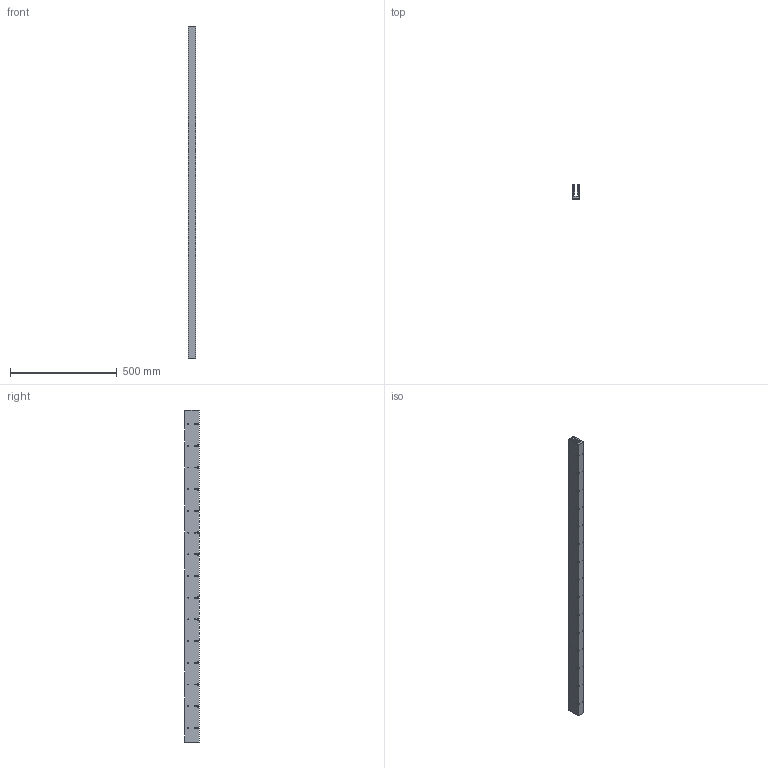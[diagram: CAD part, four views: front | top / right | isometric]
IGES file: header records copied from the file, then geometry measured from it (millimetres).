
Global section: file name: No Iges File Name specified; native system: Autodesk Inventor 2009; preprocessor: AutoDesk Inventor Iges Exporter R2009; author: je17857; date: 20091116.111757; units: inch
Bounding box: 34.29 x 67.31 x 1554.48 mm (x, y, z)
Volume: 2324650.8 mm3; surface area: 584143.4 mm2
Topology: 1 solids, 1 shells, 790 faces, 1878 edges, 1252 vertices
Faces by surface type: plane 550, bspline 240
